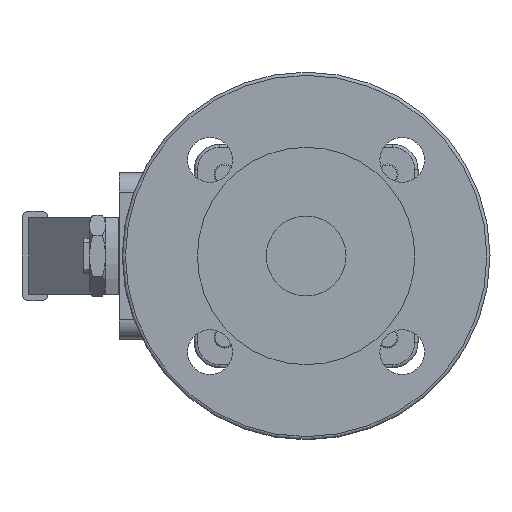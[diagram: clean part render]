
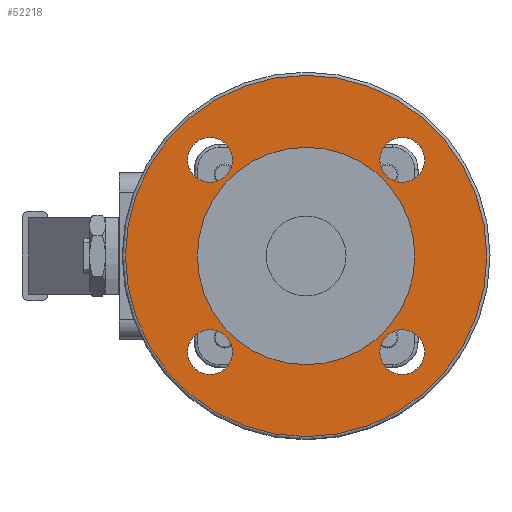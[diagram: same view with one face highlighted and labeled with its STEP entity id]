
A CAD part, left-side view. The second image highlights one B-rep face of the part: STEP entity #52218.
In plain terms, the highlighted planar face has unit normal (-1, 0, 0).
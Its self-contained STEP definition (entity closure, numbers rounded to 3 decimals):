
#52140=CARTESIAN_POINT('',(-54.,56.5,0.0));
#52141=VERTEX_POINT('',#52140);
#52142=CARTESIAN_POINT('',(-54.0,0.,0.0));
#52143=DIRECTION('',(1.0,0.0,0.0));
#52144=DIRECTION('',(0.0,-1.0,0.0));
#52145=AXIS2_PLACEMENT_3D('',#52142,#52143,#52144);
#52146=CIRCLE('',#52145,56.5);
#52147=EDGE_CURVE('',#52141,#52141,#52146,.T.);
#52155=CARTESIAN_POINT('',(-54.,45.75,0.0));
#52156=DIRECTION('',(-1.0,0.0,0.0));
#52157=DIRECTION('',(0.0,0.0,1.0));
#52158=AXIS2_PLACEMENT_3D('',#52155,#52156,#52157);
#52159=PLANE('',#52158);
#52160=ORIENTED_EDGE('',*,*,#52147,.F.);
#52161=EDGE_LOOP('',(#52160));
#52162=FACE_OUTER_BOUND('',#52161,.T.);
#52163=CARTESIAN_POINT('',(-54.,34.,0.0));
#52164=VERTEX_POINT('',#52163);
#52165=CARTESIAN_POINT('',(-54.,0.,0.0));
#52166=DIRECTION('',(1.0,0.0,0.0));
#52167=DIRECTION('',(0.0,1.0,0.0));
#52168=AXIS2_PLACEMENT_3D('',#52165,#52166,#52167);
#52169=CIRCLE('',#52168,34.0);
#52170=EDGE_CURVE('',#52164,#52164,#52169,.T.);
#52171=ORIENTED_EDGE('',*,*,#52170,.T.);
#52172=EDGE_LOOP('',(#52171));
#52173=FACE_BOUND('',#52172,.T.);
#52174=CARTESIAN_POINT('',(-54.0,30.052,-23.052));
#52175=VERTEX_POINT('',#52174);
#52176=CARTESIAN_POINT('',(-54.,30.052,-30.052));
#52177=DIRECTION('',(1.0,0.0,0.0));
#52178=DIRECTION('',(0.0,0.0,1.0));
#52179=AXIS2_PLACEMENT_3D('',#52176,#52177,#52178);
#52180=CIRCLE('',#52179,7.);
#52181=EDGE_CURVE('',#52175,#52175,#52180,.T.);
#52182=ORIENTED_EDGE('',*,*,#52181,.T.);
#52183=EDGE_LOOP('',(#52182));
#52184=FACE_BOUND('',#52183,.T.);
#52185=CARTESIAN_POINT('',(-54.0,30.052,37.052));
#52186=VERTEX_POINT('',#52185);
#52187=CARTESIAN_POINT('',(-54.,30.052,30.052));
#52188=DIRECTION('',(1.0,0.0,0.0));
#52189=DIRECTION('',(0.0,0.0,1.0));
#52190=AXIS2_PLACEMENT_3D('',#52187,#52188,#52189);
#52191=CIRCLE('',#52190,7.);
#52192=EDGE_CURVE('',#52186,#52186,#52191,.T.);
#52193=ORIENTED_EDGE('',*,*,#52192,.T.);
#52194=EDGE_LOOP('',(#52193));
#52195=FACE_BOUND('',#52194,.T.);
#52196=CARTESIAN_POINT('',(-54.0,-30.052,37.052));
#52197=VERTEX_POINT('',#52196);
#52198=CARTESIAN_POINT('',(-54.0,-30.052,30.052));
#52199=DIRECTION('',(1.0,0.0,0.0));
#52200=DIRECTION('',(0.0,0.0,1.0));
#52201=AXIS2_PLACEMENT_3D('',#52198,#52199,#52200);
#52202=CIRCLE('',#52201,7.);
#52203=EDGE_CURVE('',#52197,#52197,#52202,.T.);
#52204=ORIENTED_EDGE('',*,*,#52203,.T.);
#52205=EDGE_LOOP('',(#52204));
#52206=FACE_BOUND('',#52205,.T.);
#52207=CARTESIAN_POINT('',(-54.0,-30.052,-23.052));
#52208=VERTEX_POINT('',#52207);
#52209=CARTESIAN_POINT('',(-54.0,-30.052,-30.052));
#52210=DIRECTION('',(1.0,0.0,0.0));
#52211=DIRECTION('',(0.0,0.0,1.0));
#52212=AXIS2_PLACEMENT_3D('',#52209,#52210,#52211);
#52213=CIRCLE('',#52212,7.);
#52214=EDGE_CURVE('',#52208,#52208,#52213,.T.);
#52215=ORIENTED_EDGE('',*,*,#52214,.T.);
#52216=EDGE_LOOP('',(#52215));
#52217=FACE_BOUND('',#52216,.T.);
#52218=ADVANCED_FACE('',(#52162,#52173,#52184,#52195,#52206,#52217),#52159,.T.);
